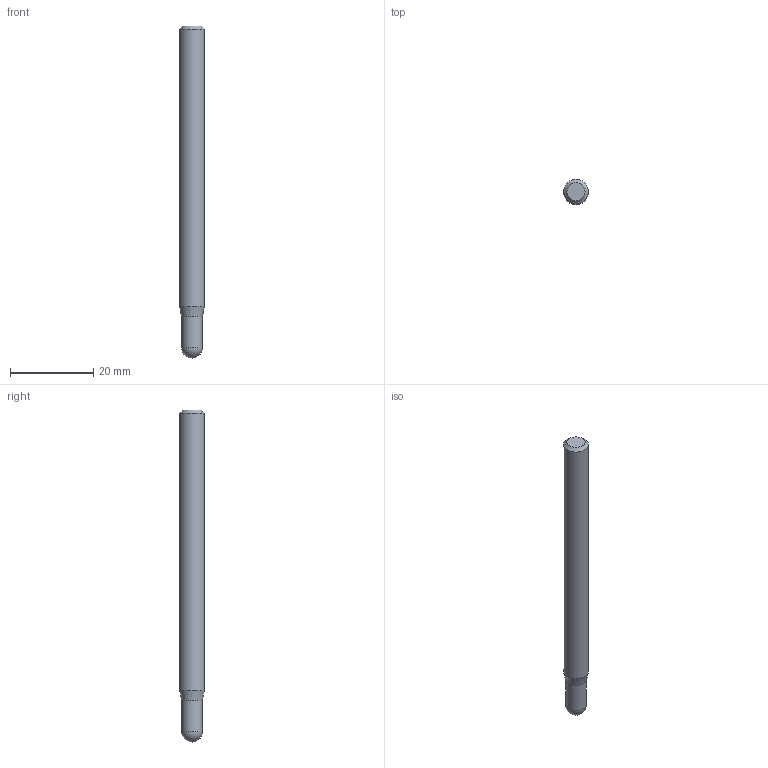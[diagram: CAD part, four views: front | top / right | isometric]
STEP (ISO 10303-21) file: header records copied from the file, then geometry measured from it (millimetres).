
FILE_DESCRIPTION((''),'2;1');
FILE_NAME('C:\Users\nsx150\AppData\Local\Temp\Mastercam 2021\EUJSUNXURU\TEMP.step','2021-04-22T10:26:35',(''),(''),'STEP Write','Mastercam 2021 ... CNC Software, Inc.','');
FILE_SCHEMA(('AUTOMOTIVE_DESIGN'));
Length unit declared in the file: millimetre
Products named in the file (1): None
Bounding box: 6 x 6 x 80 mm (x, y, z)
Volume: 2143.2 mm3; surface area: 1531.6 mm2
Topology: 2 solids, 2 shells, 8 faces, 12 edges, 7 vertices
Faces by surface type: plane 3, cylinder 2, cone 2, sphere 1
Full cylindrical faces by diameter (mm): 5 x1, 6 x1
Entity records: 190 total; most frequent: DIRECTION 32, CARTESIAN_POINT 22, AXIS2_PLACEMENT_3D 16, ORIENTED_EDGE 12, EDGE_LOOP 12, STYLED_ITEM 11, ADVANCED_FACE 8, VERTEX_POINT 6
